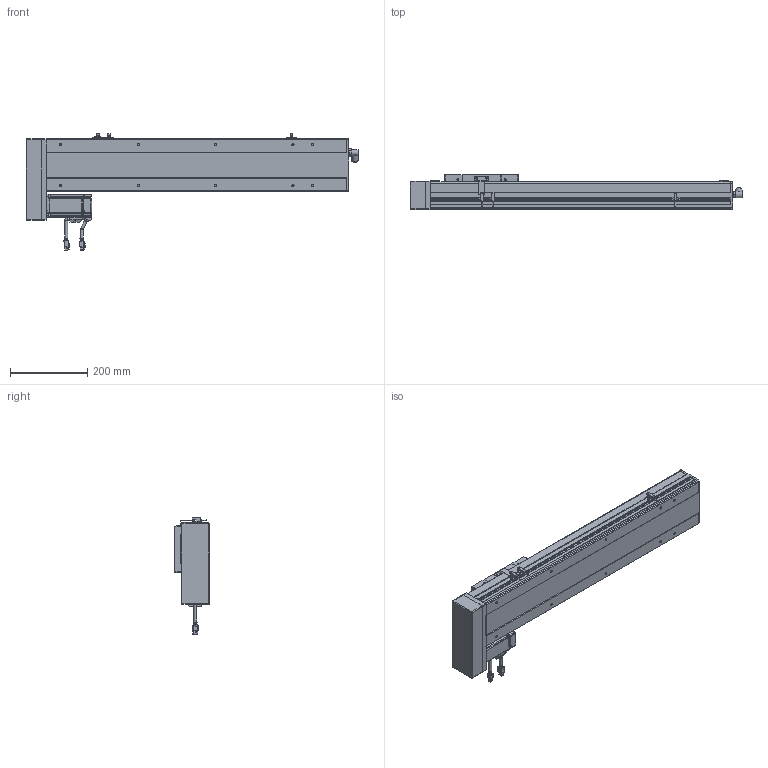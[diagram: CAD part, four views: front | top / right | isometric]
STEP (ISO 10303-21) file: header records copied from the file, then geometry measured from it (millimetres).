
FILE_DESCRIPTION(/* description */ ('STEP AP214'),/* implementation_level */ '2;1');
FILE_NAME(/* name */ 'PSC140-L05-S500-BR-P40-C1-N(0)',/* time_stamp */ '2022-06-13T03:34:59+02:00',/* author */ ('License CC BY-ND 4.0'),/* organization */ ('CADENAS'),/* preprocessor_version */ 'ST-DEVELOPER v18.102',/* originating_system */ 'PARTsolutions',/* authorisation */ ' ');
FILE_SCHEMA (('AUTOMOTIVE_DESIGN {1 0 10303 214 3 1 1}'));
Length unit declared in the file: millimetre
Products named in the file (11): PSC140-L05-S500-BR-P40-C1-N(0); P40-s2; P40-c2; P40-s1; P40-c1; P40-p1; PSC140-BR-body2; PSC140-sensor; PSC140-BR-SLIDER; PSC140-S500-BR-P40-C1_BODY1; PSC140-L05-S500-BR-P40-C1-N(0)_dummy
Assembly tree (12 placements, depth 2):
  PSC140-L05-S500-BR-P40-C1-N(0)
    P40-s2
    P40-c2
    P40-s1
    P40-c1
    P40-p1
    PSC140-BR-body2
    PSC140-sensor  x3
    PSC140-BR-SLIDER
    PSC140-S500-BR-P40-C1_BODY1
    PSC140-L05-S500-BR-P40-C1-N(0)_dummy
Bounding box: 858 x 91 x 300.88 mm (x, y, z)
Volume: 8977110.1 mm3; surface area: 559951.5 mm2
Topology: 11 solids, 11 shells, 1225 faces, 3169 edges, 2097 vertices
Faces by surface type: plane 856, cylinder 312, cone 38, torus 19
Full cylindrical faces by diameter (mm): 1 x8, 2.6 x10, 2.8 x3, 3.3 x8, 4.5 x12, 4.6 x3, 4.917 x14, 5 x4, 5.5 x8, 6 x10, 7 x10, 9 x2, 10 x1, 11 x1, 12 x1, 13.74 x1, 14 x1, 16.4 x2, 16.5 x1, 36 x1, 50 x2
Entity records: 33966 total; most frequent: CARTESIAN_POINT 5935, DIRECTION 5707, ORIENTED_EDGE 5522, EDGE_CURVE 2761, LINE 2097, VECTOR 2097, VERTEX_POINT 1918, AXIS2_PLACEMENT_3D 1805
